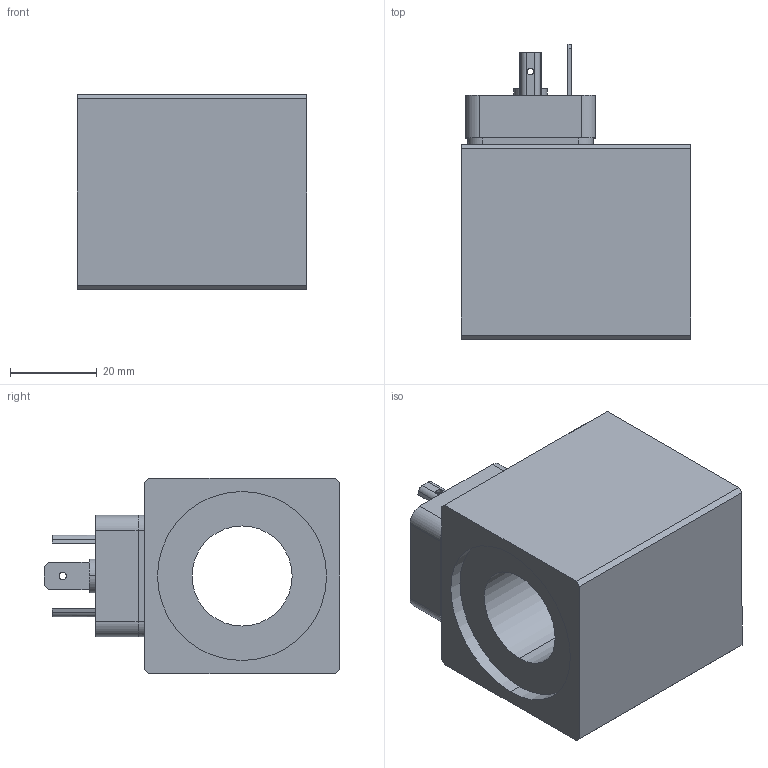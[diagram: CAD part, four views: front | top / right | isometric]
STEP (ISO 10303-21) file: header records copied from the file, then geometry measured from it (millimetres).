
FILE_DESCRIPTION (( 'STEP AP214' ), '1' );
FILE_NAME ('MDS45_23x50.STEP', '2015-07-16T12:47:40', ( '' ), ( '' ), 'SwSTEP 2.0', 'SolidWorks 2014', '' );
FILE_SCHEMA (( 'AUTOMOTIVE_DESIGN' ));
Length unit declared in the file: millimetre
Products named in the file (2): MDS45_23x50
Bounding box: 53 x 68.1 x 45 mm (x, y, z)
Volume: 90725 mm3; surface area: 20843.4 mm2
Topology: 5 solids, 9 shells, 301 faces, 784 edges, 517 vertices
Faces by surface type: plane 205, cylinder 92, cone 2, bspline 2
Entity records: 12511 total; most frequent: CARTESIAN_POINT 1734, DIRECTION 1586, ORIENTED_EDGE 1568, EDGE_CURVE 784, LINE 552, VECTOR 552, VERTEX_POINT 517, AXIS2_PLACEMENT_3D 517
